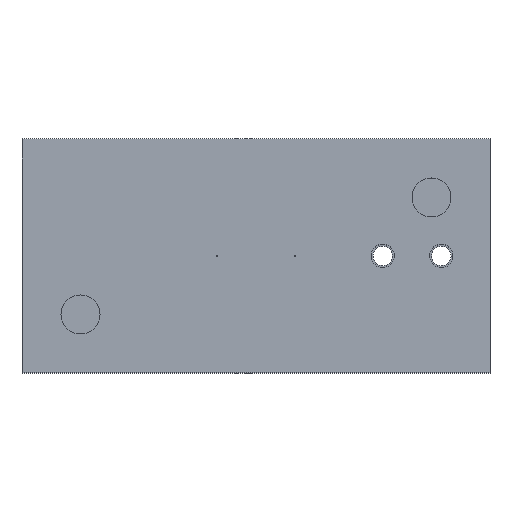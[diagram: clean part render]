
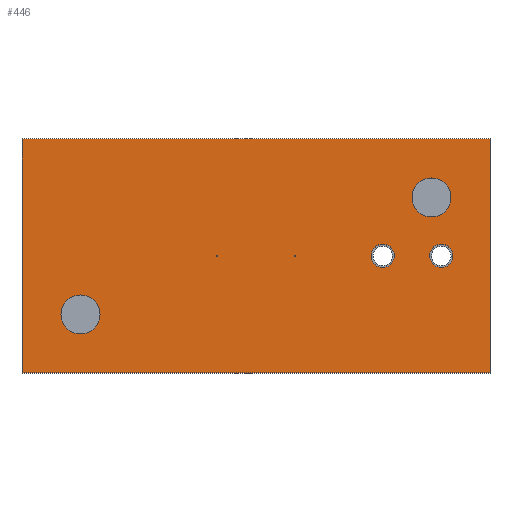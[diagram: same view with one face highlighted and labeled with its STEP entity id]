
A CAD part, top view. The second image highlights one B-rep face of the part: STEP entity #446.
In plain terms, the highlighted planar face has unit normal (0, 0, 1).
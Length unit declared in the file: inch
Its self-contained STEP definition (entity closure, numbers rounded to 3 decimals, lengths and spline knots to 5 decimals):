
#9 = EDGE_CURVE ( 'NONE', #293, #140, #965, .T. ) ;
#19 = CARTESIAN_POINT ( 'NONE',  ( 3., -1.5, 1.25 ) ) ;
#24 = CARTESIAN_POINT ( 'NONE',  ( 0.5, 0., 1.25 ) ) ;
#25 = VERTEX_POINT ( 'NONE', #624 ) ;
#34 = CARTESIAN_POINT ( 'NONE',  ( 3., 1.5, 1.25 ) ) ;
#39 = CIRCLE ( 'NONE', #324, 0.15 ) ;
#40 = DIRECTION ( 'NONE',  ( 0., 0., 1. ) ) ;
#45 = FACE_BOUND ( 'NONE', #305, .T. ) ;
#47 = DIRECTION ( 'NONE',  ( 1., 0., 0. ) ) ;
#61 = AXIS2_PLACEMENT_3D ( 'NONE', #127, #285, #47 ) ;
#62 = CIRCLE ( 'NONE', #666, 0.01 ) ;
#63 = EDGE_CURVE ( 'NONE', #625, #228, #380, .T. ) ;
#83 = LINE ( 'NONE', #518, #493 ) ;
#92 = EDGE_CURVE ( 'NONE', #388, #563, #475, .T. ) ;
#95 = DIRECTION ( 'NONE',  ( 0., 0., 1. ) ) ;
#99 = ORIENTED_EDGE ( 'NONE', *, *, #629, .F. ) ;
#102 = VERTEX_POINT ( 'NONE', #853 ) ;
#104 = EDGE_CURVE ( 'NONE', #140, #293, #177, .T. ) ;
#121 = AXIS2_PLACEMENT_3D ( 'NONE', #874, #210, #425 ) ;
#127 = CARTESIAN_POINT ( 'NONE',  ( 2.25, 0.75, 1.25 ) ) ;
#136 = CARTESIAN_POINT ( 'NONE',  ( 0., 0., 1.25 ) ) ;
#139 = CARTESIAN_POINT ( 'NONE',  ( -2., -0.75, 1.25 ) ) ;
#140 = VERTEX_POINT ( 'NONE', #327 ) ;
#148 = ORIENTED_EDGE ( 'NONE', *, *, #9, .F. ) ;
#155 = CARTESIAN_POINT ( 'NONE',  ( 2.375, 0., 1.25 ) ) ;
#159 = EDGE_CURVE ( 'NONE', #554, #312, #633, .T. ) ;
#162 = EDGE_CURVE ( 'NONE', #833, #937, #479, .T. ) ;
#163 = VERTEX_POINT ( 'NONE', #248 ) ;
#164 = CARTESIAN_POINT ( 'NONE',  ( 1.625, 0., 1.25 ) ) ;
#172 = EDGE_CURVE ( 'NONE', #102, #25, #62, .T. ) ;
#176 = DIRECTION ( 'NONE',  ( 0., 0., 1. ) ) ;
#177 = CIRCLE ( 'NONE', #730, 0.01 ) ;
#181 = CARTESIAN_POINT ( 'NONE',  ( -0.5, 0., 1.25 ) ) ;
#183 = ORIENTED_EDGE ( 'NONE', *, *, #63, .F. ) ;
#201 = CARTESIAN_POINT ( 'NONE',  ( 0.51, 0., 1.25 ) ) ;
#210 = DIRECTION ( 'NONE',  ( 0., 0., 1. ) ) ;
#221 = DIRECTION ( 'NONE',  ( 0., 0., 1. ) ) ;
#225 = VERTEX_POINT ( 'NONE', #641 ) ;
#226 = CARTESIAN_POINT ( 'NONE',  ( 1.475, 0., 1.25 ) ) ;
#227 = CARTESIAN_POINT ( 'NONE',  ( 2.5, 0.75, 1.25 ) ) ;
#228 = VERTEX_POINT ( 'NONE', #553 ) ;
#231 = AXIS2_PLACEMENT_3D ( 'NONE', #610, #330, #246 ) ;
#243 = DIRECTION ( 'NONE',  ( 1., 0., 0. ) ) ;
#246 = DIRECTION ( 'NONE',  ( 1., 0., 0. ) ) ;
#248 = CARTESIAN_POINT ( 'NONE',  ( 2.225, 0., 1.25 ) ) ;
#274 = FACE_BOUND ( 'NONE', #774, .T. ) ;
#279 = DIRECTION ( 'NONE',  ( 0., 0., 1. ) ) ;
#285 = DIRECTION ( 'NONE',  ( 0., 0., 1. ) ) ;
#292 = CARTESIAN_POINT ( 'NONE',  ( -3., 1.5, 1.25 ) ) ;
#293 = VERTEX_POINT ( 'NONE', #201 ) ;
#303 = ORIENTED_EDGE ( 'NONE', *, *, #672, .F. ) ;
#304 = DIRECTION ( 'NONE',  ( -1., 0., 0. ) ) ;
#305 = EDGE_LOOP ( 'NONE', ( #303, #822 ) ) ;
#312 = VERTEX_POINT ( 'NONE', #815 ) ;
#315 = EDGE_LOOP ( 'NONE', ( #148, #513 ) ) ;
#316 = DIRECTION ( 'NONE',  ( 1., 0., 0. ) ) ;
#324 = AXIS2_PLACEMENT_3D ( 'NONE', #155, #451, #827 ) ;
#327 = CARTESIAN_POINT ( 'NONE',  ( 0.49, 0., 1.25 ) ) ;
#330 = DIRECTION ( 'NONE',  ( 0., 0., 1. ) ) ;
#336 = AXIS2_PLACEMENT_3D ( 'NONE', #716, #40, #646 ) ;
#351 = EDGE_CURVE ( 'NONE', #225, #792, #712, .T. ) ;
#354 = PLANE ( 'NONE',  #717 ) ;
#373 = EDGE_CURVE ( 'NONE', #25, #102, #762, .T. ) ;
#375 = CIRCLE ( 'NONE', #844, 0.25 ) ;
#380 = CIRCLE ( 'NONE', #934, 0.15 ) ;
#388 = VERTEX_POINT ( 'NONE', #834 ) ;
#393 = ORIENTED_EDGE ( 'NONE', *, *, #468, .F. ) ;
#397 = DIRECTION ( 'NONE',  ( 0., -1., 0. ) ) ;
#406 = DIRECTION ( 'NONE',  ( 0., 1., 0. ) ) ;
#407 = ORIENTED_EDGE ( 'NONE', *, *, #159, .T. ) ;
#419 = CIRCLE ( 'NONE', #121, 0.15 ) ;
#425 = DIRECTION ( 'NONE',  ( 1., 0., 0. ) ) ;
#430 = AXIS2_PLACEMENT_3D ( 'NONE', #540, #639, #708 ) ;
#443 = FACE_OUTER_BOUND ( 'NONE', #830, .T. ) ;
#445 = ORIENTED_EDGE ( 'NONE', *, *, #694, .T. ) ;
#446 = ADVANCED_FACE ( 'NONE', ( #894, #878, #735, #496, #274, #443, #45 ), #354, .T. ) ;
#451 = DIRECTION ( 'NONE',  ( 0., 0., 1. ) ) ;
#456 = DIRECTION ( 'NONE',  ( 1., 0., 0. ) ) ;
#457 = CARTESIAN_POINT ( 'NONE',  ( 2.525, 0., 1.25 ) ) ;
#462 = DIRECTION ( 'NONE',  ( 1., 0., 0. ) ) ;
#468 = EDGE_CURVE ( 'NONE', #792, #225, #375, .T. ) ;
#473 = ORIENTED_EDGE ( 'NONE', *, *, #611, .T. ) ;
#475 = CIRCLE ( 'NONE', #430, 0.25 ) ;
#476 = EDGE_LOOP ( 'NONE', ( #871, #681 ) ) ;
#479 = LINE ( 'NONE', #19, #763 ) ;
#493 = VECTOR ( 'NONE', #602, 39.37008 ) ;
#496 = FACE_BOUND ( 'NONE', #315, .T. ) ;
#505 = EDGE_CURVE ( 'NONE', #798, #163, #419, .T. ) ;
#513 = ORIENTED_EDGE ( 'NONE', *, *, #104, .F. ) ;
#516 = LINE ( 'NONE', #903, #588 ) ;
#518 = CARTESIAN_POINT ( 'NONE',  ( 3., -1.5, 1.25 ) ) ;
#533 = EDGE_CURVE ( 'NONE', #563, #388, #585, .T. ) ;
#540 = CARTESIAN_POINT ( 'NONE',  ( -2.25, -0.75, 1.25 ) ) ;
#546 = AXIS2_PLACEMENT_3D ( 'NONE', #164, #221, #456 ) ;
#551 = CARTESIAN_POINT ( 'NONE',  ( 1.625, 0., 1.25 ) ) ;
#553 = CARTESIAN_POINT ( 'NONE',  ( 1.775, 0., 1.25 ) ) ;
#554 = VERTEX_POINT ( 'NONE', #292 ) ;
#563 = VERTEX_POINT ( 'NONE', #139 ) ;
#572 = CARTESIAN_POINT ( 'NONE',  ( 2.25, 0.75, 1.25 ) ) ;
#576 = CARTESIAN_POINT ( 'NONE',  ( -2.25, -0.75, 1.25 ) ) ;
#585 = CIRCLE ( 'NONE', #801, 0.25 ) ;
#588 = VECTOR ( 'NONE', #304, 39.37008 ) ;
#602 = DIRECTION ( 'NONE',  ( 1., 0., 0. ) ) ;
#610 = CARTESIAN_POINT ( 'NONE',  ( 0.5, 0., 1.25 ) ) ;
#611 = EDGE_CURVE ( 'NONE', #312, #833, #83, .T. ) ;
#624 = CARTESIAN_POINT ( 'NONE',  ( -0.51, 0., 1.25 ) ) ;
#625 = VERTEX_POINT ( 'NONE', #226 ) ;
#629 = EDGE_CURVE ( 'NONE', #228, #625, #753, .T. ) ;
#633 = LINE ( 'NONE', #858, #840 ) ;
#639 = DIRECTION ( 'NONE',  ( 0., 0., 1. ) ) ;
#641 = CARTESIAN_POINT ( 'NONE',  ( 2., 0.75, 1.25 ) ) ;
#646 = DIRECTION ( 'NONE',  ( 1., 0., 0. ) ) ;
#649 = EDGE_LOOP ( 'NONE', ( #393, #699 ) ) ;
#666 = AXIS2_PLACEMENT_3D ( 'NONE', #181, #176, #243 ) ;
#667 = CARTESIAN_POINT ( 'NONE',  ( 3., -1.5, 1.25 ) ) ;
#672 = EDGE_CURVE ( 'NONE', #163, #798, #39, .T. ) ;
#681 = ORIENTED_EDGE ( 'NONE', *, *, #373, .F. ) ;
#694 = EDGE_CURVE ( 'NONE', #937, #554, #516, .T. ) ;
#699 = ORIENTED_EDGE ( 'NONE', *, *, #351, .F. ) ;
#708 = DIRECTION ( 'NONE',  ( 1., 0., 0. ) ) ;
#712 = CIRCLE ( 'NONE', #61, 0.25 ) ;
#716 = CARTESIAN_POINT ( 'NONE',  ( -0.5, 0., 1.25 ) ) ;
#717 = AXIS2_PLACEMENT_3D ( 'NONE', #136, #279, #807 ) ;
#730 = AXIS2_PLACEMENT_3D ( 'NONE', #24, #95, #316 ) ;
#735 = FACE_BOUND ( 'NONE', #476, .T. ) ;
#753 = CIRCLE ( 'NONE', #546, 0.15 ) ;
#758 = ORIENTED_EDGE ( 'NONE', *, *, #162, .T. ) ;
#762 = CIRCLE ( 'NONE', #336, 0.01 ) ;
#763 = VECTOR ( 'NONE', #406, 39.37008 ) ;
#772 = EDGE_LOOP ( 'NONE', ( #890, #976 ) ) ;
#774 = EDGE_LOOP ( 'NONE', ( #183, #99 ) ) ;
#792 = VERTEX_POINT ( 'NONE', #227 ) ;
#798 = VERTEX_POINT ( 'NONE', #457 ) ;
#801 = AXIS2_PLACEMENT_3D ( 'NONE', #576, #960, #802 ) ;
#802 = DIRECTION ( 'NONE',  ( 1., 0., 0. ) ) ;
#807 = DIRECTION ( 'NONE',  ( 1., 0., 0. ) ) ;
#815 = CARTESIAN_POINT ( 'NONE',  ( -3., -1.5, 1.25 ) ) ;
#822 = ORIENTED_EDGE ( 'NONE', *, *, #505, .F. ) ;
#827 = DIRECTION ( 'NONE',  ( 1., 0., 0. ) ) ;
#830 = EDGE_LOOP ( 'NONE', ( #407, #473, #758, #445 ) ) ;
#833 = VERTEX_POINT ( 'NONE', #667 ) ;
#834 = CARTESIAN_POINT ( 'NONE',  ( -2.5, -0.75, 1.25 ) ) ;
#840 = VECTOR ( 'NONE', #397, 39.37008 ) ;
#844 = AXIS2_PLACEMENT_3D ( 'NONE', #572, #882, #888 ) ;
#853 = CARTESIAN_POINT ( 'NONE',  ( -0.49, 0., 1.25 ) ) ;
#855 = DIRECTION ( 'NONE',  ( 0., 0., 1. ) ) ;
#858 = CARTESIAN_POINT ( 'NONE',  ( -3., -1.5, 1.25 ) ) ;
#871 = ORIENTED_EDGE ( 'NONE', *, *, #172, .F. ) ;
#874 = CARTESIAN_POINT ( 'NONE',  ( 2.375, 0., 1.25 ) ) ;
#878 = FACE_BOUND ( 'NONE', #772, .T. ) ;
#882 = DIRECTION ( 'NONE',  ( 0., 0., 1. ) ) ;
#888 = DIRECTION ( 'NONE',  ( 1., 0., 0. ) ) ;
#890 = ORIENTED_EDGE ( 'NONE', *, *, #533, .F. ) ;
#894 = FACE_BOUND ( 'NONE', #649, .T. ) ;
#903 = CARTESIAN_POINT ( 'NONE',  ( 3., 1.5, 1.25 ) ) ;
#934 = AXIS2_PLACEMENT_3D ( 'NONE', #551, #855, #462 ) ;
#937 = VERTEX_POINT ( 'NONE', #34 ) ;
#960 = DIRECTION ( 'NONE',  ( 0., 0., 1. ) ) ;
#965 = CIRCLE ( 'NONE', #231, 0.01 ) ;
#976 = ORIENTED_EDGE ( 'NONE', *, *, #92, .F. ) ;
